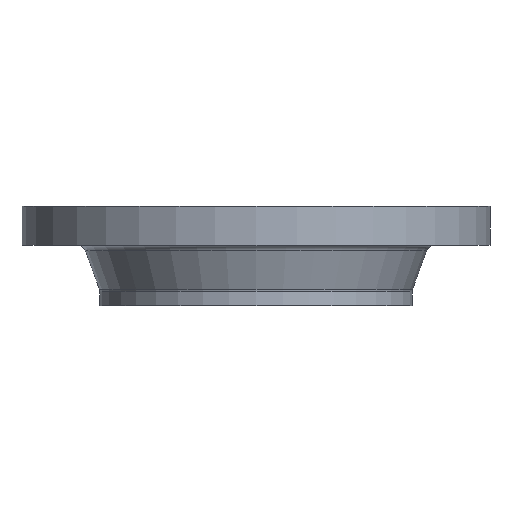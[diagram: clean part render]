
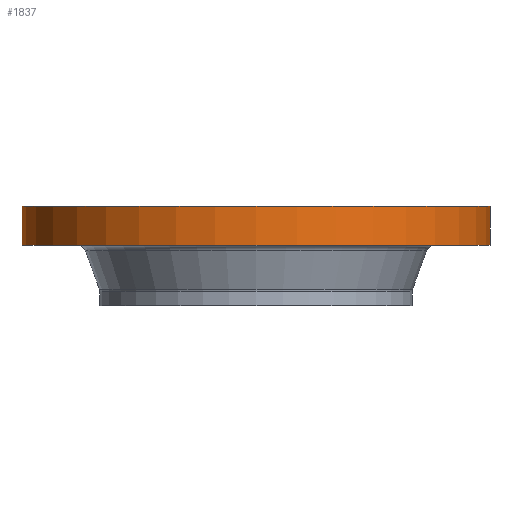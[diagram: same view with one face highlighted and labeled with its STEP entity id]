
A CAD part, front view. The second image highlights one B-rep face of the part: STEP entity #1837.
In plain terms, the highlighted cylindrical face has radius 342.5 mm (diameter 685 mm), a partial arc.
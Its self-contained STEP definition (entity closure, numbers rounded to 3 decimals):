
#87 = VERTEX_POINT ( 'NONE', #881 ) ;
#182 = DIRECTION ( 'NONE',  ( 0., 0., 1. ) ) ;
#195 = AXIS2_PLACEMENT_3D ( 'NONE', #473, #472, #470 ) ;
#219 = CARTESIAN_POINT ( 'NONE',  ( -342.5, 0., 0. ) ) ;
#309 = CARTESIAN_POINT ( 'NONE',  ( 0., 0., -145. ) ) ;
#334 = EDGE_CURVE ( 'NONE', #87, #1360, #744, .T. ) ;
#345 = CARTESIAN_POINT ( 'NONE',  ( 342.5, 0., -57. ) ) ;
#426 = DIRECTION ( 'NONE',  ( 0., 0., 1. ) ) ;
#427 = CARTESIAN_POINT ( 'NONE',  ( 342.5, 0., -145. ) ) ;
#428 = LINE ( 'NONE', #427, #700 ) ;
#470 = DIRECTION ( 'NONE',  ( 1., 0., 0. ) ) ;
#472 = DIRECTION ( 'NONE',  ( 0., 0., 1. ) ) ;
#473 = CARTESIAN_POINT ( 'NONE',  ( 0., 0., -57. ) ) ;
#528 = CIRCLE ( 'NONE', #195, 342.5 ) ;
#532 = AXIS2_PLACEMENT_3D ( 'NONE', #795, #182, #1748 ) ;
#628 = CARTESIAN_POINT ( 'NONE',  ( 342.5, 0., 0. ) ) ;
#630 = VERTEX_POINT ( 'NONE', #628 ) ;
#700 = VECTOR ( 'NONE', #426, 1000. ) ;
#741 = DIRECTION ( 'NONE',  ( 0., 0., 1. ) ) ;
#742 = CARTESIAN_POINT ( 'NONE',  ( -342.5, 0., -145. ) ) ;
#744 = LINE ( 'NONE', #742, #1154 ) ;
#795 = CARTESIAN_POINT ( 'NONE',  ( 0., 0., 0. ) ) ;
#881 = CARTESIAN_POINT ( 'NONE',  ( -342.5, 0., -57. ) ) ;
#974 = EDGE_CURVE ( 'NONE', #87, #1194, #528, .T. ) ;
#1064 = EDGE_CURVE ( 'NONE', #1194, #630, #428, .T. ) ;
#1103 = DIRECTION ( 'NONE',  ( 0., 0., 1. ) ) ;
#1154 = VECTOR ( 'NONE', #741, 1000. ) ;
#1194 = VERTEX_POINT ( 'NONE', #345 ) ;
#1209 = EDGE_LOOP ( 'NONE', ( #1518, #1519, #1520, #1521 ) ) ;
#1268 = FACE_OUTER_BOUND ( 'NONE', #1209, .T. ) ;
#1360 = VERTEX_POINT ( 'NONE', #219 ) ;
#1518 = ORIENTED_EDGE ( 'NONE', *, *, #334, .F. ) ;
#1519 = ORIENTED_EDGE ( 'NONE', *, *, #974, .T. ) ;
#1520 = ORIENTED_EDGE ( 'NONE', *, *, #1064, .T. ) ;
#1521 = ORIENTED_EDGE ( 'NONE', *, *, #1635, .F. ) ;
#1616 = DIRECTION ( 'NONE',  ( 1., 0., 0. ) ) ;
#1635 = EDGE_CURVE ( 'NONE', #1360, #630, #1643, .T. ) ;
#1643 = CIRCLE ( 'NONE', #532, 342.5 ) ;
#1670 = CYLINDRICAL_SURFACE ( 'NONE', #1676, 342.5 ) ;
#1676 = AXIS2_PLACEMENT_3D ( 'NONE', #309, #1103, #1616 ) ;
#1748 = DIRECTION ( 'NONE',  ( 1., 0., 0. ) ) ;
#1837 = ADVANCED_FACE ( 'NONE', ( #1268 ), #1670, .T. ) ;
